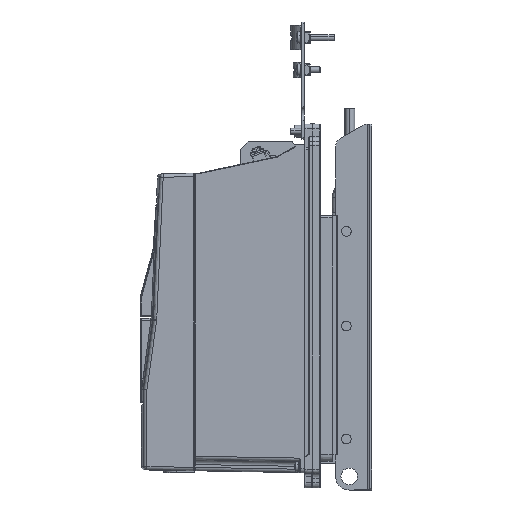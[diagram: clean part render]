
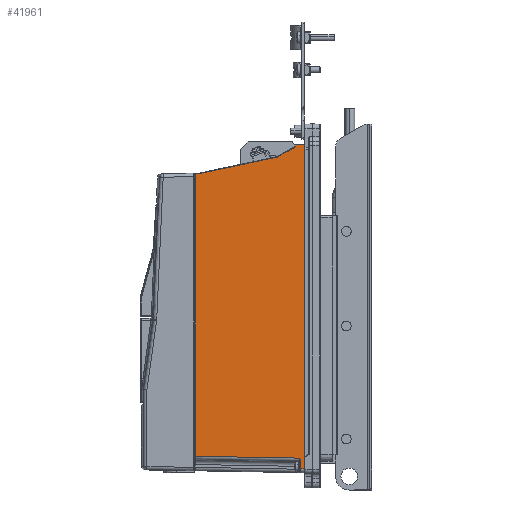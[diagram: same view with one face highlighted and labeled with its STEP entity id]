
A CAD part, left-side view. The second image highlights one B-rep face of the part: STEP entity #41961.
In plain terms, the highlighted planar face has unit normal (-1, 0.018, 0).
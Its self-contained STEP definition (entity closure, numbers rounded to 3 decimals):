
#2235 = VERTEX_POINT ( 'NONE', #37476 ) ;
#2346 = EDGE_CURVE ( 'NONE', #22958, #105896, #41480, .T. ) ;
#2446 = CARTESIAN_POINT ( 'NONE',  ( -108.81, 57.916, 136.51 ) ) ;
#3398 = EDGE_CURVE ( 'NONE', #27294, #84686, #109574, .T. ) ;
#6409 = VECTOR ( 'NONE', #109919, 1000. ) ;
#6980 = EDGE_LOOP ( 'NONE', ( #24483, #84774, #120678, #130696, #58479, #39185, #120450, #97561, #88194, #40338, #42203, #19771, #54373, #130769 ) ) ;
#10582 = LINE ( 'NONE', #61218, #62177 ) ;
#10791 = VECTOR ( 'NONE', #81054, 1000. ) ;
#13998 = LINE ( 'NONE', #125262, #36715 ) ;
#15041 = DIRECTION ( 'NONE',  ( 0.018, 1., 0. ) ) ;
#15753 = LINE ( 'NONE', #39857, #10791 ) ;
#17328 = CARTESIAN_POINT ( 'NONE',  ( -110.658, -44.991, 164.784 ) ) ;
#17998 = CARTESIAN_POINT ( 'NONE',  ( -110.326, -26.545, 153.611 ) ) ;
#19771 = ORIENTED_EDGE ( 'NONE', *, *, #3398, .T. ) ;
#21483 = EDGE_CURVE ( 'NONE', #81223, #120766, #109977, .T. ) ;
#21653 = CARTESIAN_POINT ( 'NONE',  ( -110.747, -49.991, -165.929 ) ) ;
#21907 = EDGE_CURVE ( 'NONE', #108870, #105896, #80629, .T. ) ;
#22958 = VERTEX_POINT ( 'NONE', #17998 ) ;
#24483 = ORIENTED_EDGE ( 'NONE', *, *, #99478, .F. ) ;
#26165 = EDGE_CURVE ( 'NONE', #108870, #88642, #61268, .T. ) ;
#26476 = CARTESIAN_POINT ( 'NONE',  ( -110.332, -26.837, 153.723 ) ) ;
#27193 =( BOUNDED_CURVE ( )  B_SPLINE_CURVE ( 3, ( #40913, #27462, #68621, #17328 ),
 .UNSPECIFIED., .F., .T. ) 
 B_SPLINE_CURVE_WITH_KNOTS ( ( 4, 4 ),
 ( 4.712, 5.76 ),
 .UNSPECIFIED. ) 
 CURVE ( )  GEOMETRIC_REPRESENTATION_ITEM ( )  RATIONAL_B_SPLINE_CURVE ( ( 1., 0.911, 0.911, 1. ) ) 
 REPRESENTATION_ITEM ( '' )  );
#27294 = VERTEX_POINT ( 'NONE', #50679 ) ;
#27462 = CARTESIAN_POINT ( 'NONE',  ( -110.654, -44.808, 164.1 ) ) ;
#27758 = CARTESIAN_POINT ( 'NONE',  ( -110.33, -26.763, 153.681 ) ) ;
#28297 = VECTOR ( 'NONE', #77744, 1000. ) ;
#28487 = CARTESIAN_POINT ( 'NONE',  ( -110.328, -26.648, 153.633 ) ) ;
#31503 = DIRECTION ( 'NONE',  ( 0., 0., -1. ) ) ;
#33099 = VECTOR ( 'NONE', #126470, 1000. ) ;
#34571 = CARTESIAN_POINT ( 'NONE',  ( -110.747, -49.991, -157.617 ) ) ;
#35275 = PLANE ( 'NONE',  #130389 ) ;
#36473 = VECTOR ( 'NONE', #124282, 1000. ) ;
#36672 = CARTESIAN_POINT ( 'NONE',  ( -110.658, -44.991, 164.784 ) ) ;
#36715 = VECTOR ( 'NONE', #76103, 1000. ) ;
#37382 = EDGE_CURVE ( 'NONE', #22958, #120766, #97088, .T. ) ;
#37476 = CARTESIAN_POINT ( 'NONE',  ( -110.819, -54., -166.001 ) ) ;
#39185 = ORIENTED_EDGE ( 'NONE', *, *, #37382, .F. ) ;
#39857 = CARTESIAN_POINT ( 'NONE',  ( -108.8, 58.5, 166. ) ) ;
#40203 = CARTESIAN_POINT ( 'NONE',  ( -108.891, 53.455, 136.607 ) ) ;
#40338 = ORIENTED_EDGE ( 'NONE', *, *, #129336, .T. ) ;
#40913 = CARTESIAN_POINT ( 'NONE',  ( -110.649, -44.491, 163.917 ) ) ;
#41480 = LINE ( 'NONE', #43459, #102195 ) ;
#41961 = ADVANCED_FACE ( 'NONE', ( #58841 ), #35275, .F. ) ;
#42203 = ORIENTED_EDGE ( 'NONE', *, *, #69688, .T. ) ;
#43459 = CARTESIAN_POINT ( 'NONE',  ( -108.926, 51.493, 137.024 ) ) ;
#45517 = CARTESIAN_POINT ( 'NONE',  ( -108.888, 53.582, 136.586 ) ) ;
#45712 = CARTESIAN_POINT ( 'NONE',  ( -110.649, -44.491, 163.917 ) ) ;
#47574 = VERTEX_POINT ( 'NONE', #21653 ) ;
#50163 = LINE ( 'NONE', #91335, #36473 ) ;
#50679 = CARTESIAN_POINT ( 'NONE',  ( -110.73, -49.009, -154.992 ) ) ;
#51650 = CARTESIAN_POINT ( 'NONE',  ( -110.745, -49.84, -156.69 ) ) ;
#54373 = ORIENTED_EDGE ( 'NONE', *, *, #126316, .T. ) ;
#58479 = ORIENTED_EDGE ( 'NONE', *, *, #21483, .T. ) ;
#58841 = FACE_OUTER_BOUND ( 'NONE', #6980, .T. ) ;
#60489 = EDGE_CURVE ( 'NONE', #83504, #74802, #15753, .T. ) ;
#61218 = CARTESIAN_POINT ( 'NONE',  ( -110.747, -49.991, -165.921 ) ) ;
#61268 = LINE ( 'NONE', #2446, #94480 ) ;
#62177 = VECTOR ( 'NONE', #31503, 1000. ) ;
#63085 = CARTESIAN_POINT ( 'NONE',  ( -110.743, -49.76, -156.465 ) ) ;
#66312 = CARTESIAN_POINT ( 'NONE',  ( -108.8, 58.5, 170. ) ) ;
#66528 = CARTESIAN_POINT ( 'NONE',  ( -108.809, 58.009, 136.509 ) ) ;
#67075 = CARTESIAN_POINT ( 'NONE',  ( -108.809, 58.009, -153.124 ) ) ;
#68621 = CARTESIAN_POINT ( 'NONE',  ( -110.658, -44.991, 164.418 ) ) ;
#69688 = EDGE_CURVE ( 'NONE', #84428, #27294, #125128, .T. ) ;
#74802 = VERTEX_POINT ( 'NONE', #75073 ) ;
#75073 = CARTESIAN_POINT ( 'NONE',  ( -110.658, -44.991, 166. ) ) ;
#76103 = DIRECTION ( 'NONE',  ( 0., 0., -1. ) ) ;
#76610 = CARTESIAN_POINT ( 'NONE',  ( -108.889, 53.518, 136.593 ) ) ;
#77744 = DIRECTION ( 'NONE',  ( 0.016, 0.866, -0.5 ) ) ;
#79087 = EDGE_CURVE ( 'NONE', #47574, #2235, #84624, .T. ) ;
#80629 =( BOUNDED_CURVE ( )  B_SPLINE_CURVE ( 3, ( #128442, #45517, #76610, #95449 ),
 .UNSPECIFIED., .F., .T. ) 
 B_SPLINE_CURVE_WITH_KNOTS ( ( 4, 4 ),
 ( 1.588, 1.78 ),
 .UNSPECIFIED. ) 
 CURVE ( )  GEOMETRIC_REPRESENTATION_ITEM ( )  RATIONAL_B_SPLINE_CURVE ( ( 1., 0.997, 0.997, 1. ) ) 
 REPRESENTATION_ITEM ( '' )  );
#81054 = DIRECTION ( 'NONE',  ( 0.018, 1., 0. ) ) ;
#81223 = VERTEX_POINT ( 'NONE', #45712 ) ;
#83504 = VERTEX_POINT ( 'NONE', #116850 ) ;
#84428 = VERTEX_POINT ( 'NONE', #67075 ) ;
#84595 = EDGE_CURVE ( 'NONE', #74802, #111628, #50163, .T. ) ;
#84624 = LINE ( 'NONE', #85950, #117391 ) ;
#84686 = VERTEX_POINT ( 'NONE', #34571 ) ;
#84774 = ORIENTED_EDGE ( 'NONE', *, *, #60489, .T. ) ;
#85325 = CARTESIAN_POINT ( 'NONE',  ( -110.73, -49.009, -154.992 ) ) ;
#85950 = CARTESIAN_POINT ( 'NONE',  ( -108.693, 64.434, -163.895 ) ) ;
#86608 = DIRECTION ( 'NONE',  ( -0.018, -1., -0.018 ) ) ;
#87973 = CARTESIAN_POINT ( 'NONE',  ( -108.887, 53.646, 136.585 ) ) ;
#88194 = ORIENTED_EDGE ( 'NONE', *, *, #26165, .T. ) ;
#88642 = VERTEX_POINT ( 'NONE', #66528 ) ;
#89087 = CARTESIAN_POINT ( 'NONE',  ( -108.809, 58.009, 170. ) ) ;
#91335 = CARTESIAN_POINT ( 'NONE',  ( -110.658, -44.991, 170. ) ) ;
#92801 = CARTESIAN_POINT ( 'NONE',  ( -110.747, -49.991, -157.617 ) ) ;
#94480 = VECTOR ( 'NONE', #123244, 1000. ) ;
#95449 = CARTESIAN_POINT ( 'NONE',  ( -108.891, 53.455, 136.607 ) ) ;
#97088 =( BOUNDED_CURVE ( )  B_SPLINE_CURVE ( 3, ( #130958, #28487, #119503, #26476 ),
 .UNSPECIFIED., .F., .T. ) 
 B_SPLINE_CURVE_WITH_KNOTS ( ( 4, 4 ),
 ( 4.398, 4.712 ),
 .UNSPECIFIED. ) 
 CURVE ( )  GEOMETRIC_REPRESENTATION_ITEM ( )  RATIONAL_B_SPLINE_CURVE ( ( 1., 0.992, 0.992, 1. ) ) 
 REPRESENTATION_ITEM ( '' )  );
#97561 = ORIENTED_EDGE ( 'NONE', *, *, #21907, .F. ) ;
#99478 = EDGE_CURVE ( 'NONE', #83504, #2235, #13998, .T. ) ;
#101171 = LINE ( 'NONE', #89087, #6409 ) ;
#102195 = VECTOR ( 'NONE', #104825, 1000. ) ;
#102866 = CARTESIAN_POINT ( 'NONE',  ( -110.734, -49.246, -155.402 ) ) ;
#104196 = CARTESIAN_POINT ( 'NONE',  ( -110.747, -49.956, -157.147 ) ) ;
#104825 = DIRECTION ( 'NONE',  ( 0.018, 0.978, -0.208 ) ) ;
#105896 = VERTEX_POINT ( 'NONE', #40203 ) ;
#106893 = CARTESIAN_POINT ( 'NONE',  ( -108.699, 64.136, -153.017 ) ) ;
#107398 = DIRECTION ( 'NONE',  ( 1., -0.018, 0. ) ) ;
#108870 = VERTEX_POINT ( 'NONE', #87973 ) ;
#109574 = B_SPLINE_CURVE_WITH_KNOTS ( 'NONE', 3,
 ( #85325, #102866, #125076, #63085, #51650, #104196, #126419, #92801 ),
 .UNSPECIFIED., .F., .F.,
 ( 4, 2, 2, 4 ),
 ( 0., 0.001, 0.002, 0.003 ),
 .UNSPECIFIED. ) ;
#109919 = DIRECTION ( 'NONE',  ( 0., 0., -1. ) ) ;
#109977 = LINE ( 'NONE', #27758, #28297 ) ;
#111628 = VERTEX_POINT ( 'NONE', #36672 ) ;
#116850 = CARTESIAN_POINT ( 'NONE',  ( -110.819, -54., 166. ) ) ;
#117391 = VECTOR ( 'NONE', #86608, 1000. ) ;
#117700 = EDGE_CURVE ( 'NONE', #81223, #111628, #27193, .T. ) ;
#119138 = CARTESIAN_POINT ( 'NONE',  ( -110.332, -26.837, 153.723 ) ) ;
#119503 = CARTESIAN_POINT ( 'NONE',  ( -110.33, -26.746, 153.671 ) ) ;
#120450 = ORIENTED_EDGE ( 'NONE', *, *, #2346, .T. ) ;
#120678 = ORIENTED_EDGE ( 'NONE', *, *, #84595, .T. ) ;
#120766 = VERTEX_POINT ( 'NONE', #119138 ) ;
#123244 = DIRECTION ( 'NONE',  ( 0.018, 1., -0.017 ) ) ;
#124282 = DIRECTION ( 'NONE',  ( 0., 0., -1. ) ) ;
#125076 = CARTESIAN_POINT ( 'NONE',  ( -110.738, -49.482, -155.814 ) ) ;
#125128 = LINE ( 'NONE', #106893, #33099 ) ;
#125262 = CARTESIAN_POINT ( 'NONE',  ( -110.819, -54., 170. ) ) ;
#126316 = EDGE_CURVE ( 'NONE', #84686, #47574, #10582, .T. ) ;
#126419 = CARTESIAN_POINT ( 'NONE',  ( -110.747, -49.991, -157.379 ) ) ;
#126470 = DIRECTION ( 'NONE',  ( -0.018, -1., -0.017 ) ) ;
#128442 = CARTESIAN_POINT ( 'NONE',  ( -108.887, 53.646, 136.585 ) ) ;
#129336 = EDGE_CURVE ( 'NONE', #88642, #84428, #101171, .T. ) ;
#130389 = AXIS2_PLACEMENT_3D ( 'NONE', #66312, #107398, #15041 ) ;
#130696 = ORIENTED_EDGE ( 'NONE', *, *, #117700, .F. ) ;
#130769 = ORIENTED_EDGE ( 'NONE', *, *, #79087, .T. ) ;
#130958 = CARTESIAN_POINT ( 'NONE',  ( -110.326, -26.545, 153.611 ) ) ;
